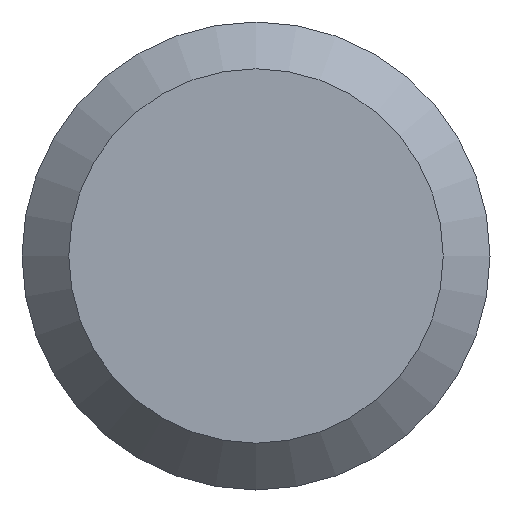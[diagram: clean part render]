
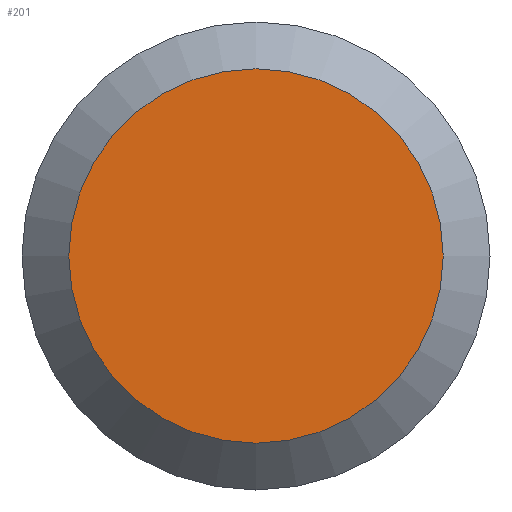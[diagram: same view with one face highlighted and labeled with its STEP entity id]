
A CAD part, left-side view. The second image highlights one B-rep face of the part: STEP entity #201.
In plain terms, the highlighted planar face has unit normal (-1, 0, 0).
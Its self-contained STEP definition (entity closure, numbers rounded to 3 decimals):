
#36 = DIRECTION ( 'NONE',  ( -1., 0., 0. ) ) ;
#38 = DIRECTION ( 'NONE',  ( 1., 0., 0. ) ) ;
#45 = EDGE_LOOP ( 'NONE', ( #163 ) ) ;
#56 = PLANE ( 'NONE',  #125 ) ;
#57 = CARTESIAN_POINT ( 'NONE',  ( 0., 0., -6.4 ) ) ;
#62 = CIRCLE ( 'NONE', #178, 6.4 ) ;
#90 = EDGE_CURVE ( 'NONE', #166, #166, #62, .T. ) ;
#125 = AXIS2_PLACEMENT_3D ( 'NONE', #192, #38, #158 ) ;
#131 = CARTESIAN_POINT ( 'NONE',  ( 0., 0., 0. ) ) ;
#136 = FACE_OUTER_BOUND ( 'NONE', #45, .T. ) ;
#155 = DIRECTION ( 'NONE',  ( 0., 0., -1. ) ) ;
#158 = DIRECTION ( 'NONE',  ( 0., 0., -1. ) ) ;
#163 = ORIENTED_EDGE ( 'NONE', *, *, #90, .T. ) ;
#166 = VERTEX_POINT ( 'NONE', #57 ) ;
#178 = AXIS2_PLACEMENT_3D ( 'NONE', #131, #36, #155 ) ;
#192 = CARTESIAN_POINT ( 'NONE',  ( 0., 8., 0. ) ) ;
#201 = ADVANCED_FACE ( 'NONE', ( #136 ), #56, .F. ) ;
